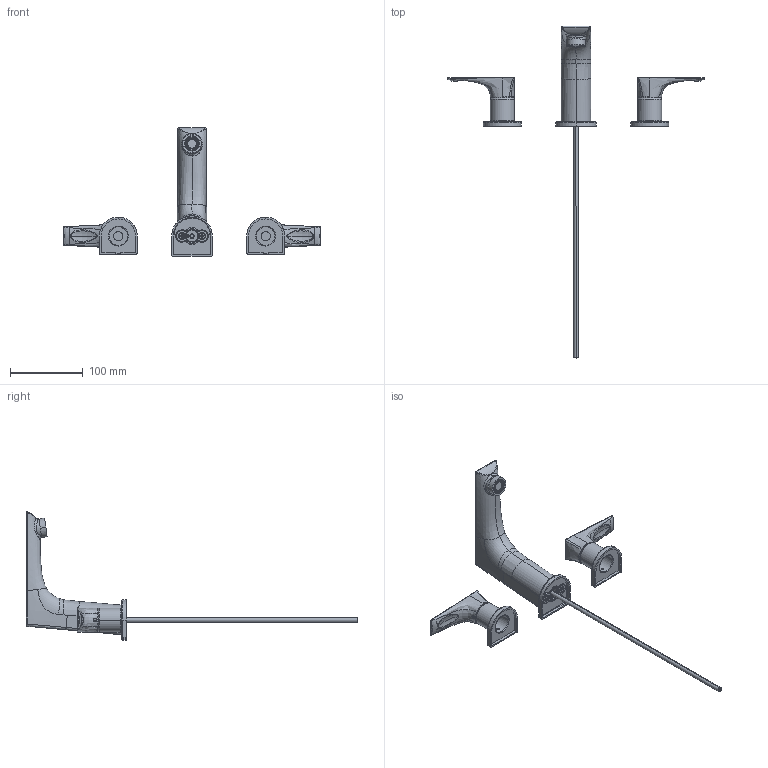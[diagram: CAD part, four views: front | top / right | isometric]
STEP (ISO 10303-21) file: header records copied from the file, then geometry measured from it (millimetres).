
FILE_DESCRIPTION (( 'STEP AP214' ), '1' );
FILE_NAME ('SLW4912.STEP', '2025-01-02T02:34:13', ( '' ), ( '' ), 'SwSTEP 2.0', 'SolidWorks 2023', '' );
FILE_SCHEMA (( 'AUTOMOTIVE_DESIGN' ));
Length unit declared in the file: inch
Products named in the file (1): SLW4912
Bounding box: 355.25 x 457.55 x 177.38 mm (x, y, z)
Surface area: 97514.4 mm2 (no closed solid volume)
Topology: 0 solids, 40 shells, 363 faces, 1576 edges, 1211 vertices
Faces by surface type: bspline 120, plane 108, cylinder 87, cone 44, torus 4
Entity records: 39085 total; most frequent: CARTESIAN_POINT 28076, ORIENTED_EDGE 2263, DIRECTION 1709, EDGE_CURVE 1559, VERTEX_POINT 1209, B_SPLINE_CURVE_WITH_KNOTS 603, VECTOR 599, LINE 599
